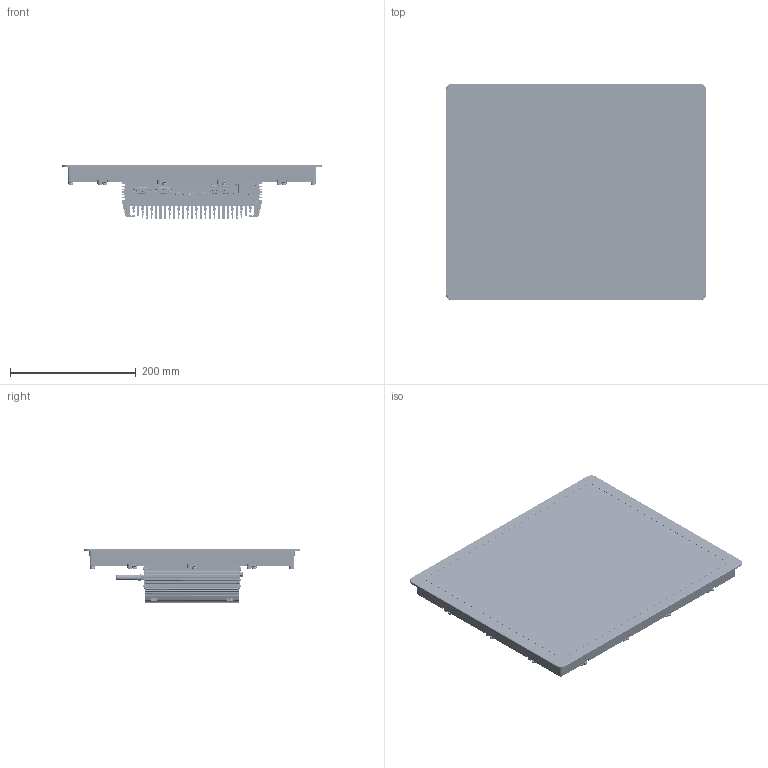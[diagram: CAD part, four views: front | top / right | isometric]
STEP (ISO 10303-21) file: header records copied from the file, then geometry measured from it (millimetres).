
FILE_DESCRIPTION(/* description */ (''),/* implementation_level */ '2;1');
FILE_NAME(/* name */ '17.0总装.stp',/* time_stamp */ '2026-03-05T10:14:39+08:00',/* author */ (''),/* organization */ (''),/* preprocessor_version */ 'ST-DEVELOPER v16',/* originating_system */ 'SIEMENS PLM Software NX 10.0',/* authorisation */ '');
FILE_SCHEMA (('AP203_CONFIGURATION_CONTROLLED_3D_DESIGN_OF_MECHANICAL_PARTS_AND_ASSEMBLIES_MIM_LF { 1 0 10303 403 2 1 2}'));
Products named in the file (1): Admi1FF8C4AFenkz
Bounding box: 414 x 345 x 86 mm (x, y, z)
Volume: 1514740.4 mm3; surface area: 1077590 mm2
Topology: 209 solids, 226 shells, 14937 faces, 38852 edges, 24557 vertices
Faces by surface type: plane 6781, cylinder 5497, bspline 1743, torus 485, cone 313, sphere 118
Full cylindrical faces by diameter (mm): 4.2 x1, 6 x14, 7 x14
Entity records: 616887 total; most frequent: CARTESIAN_POINT 316838, ORIENTED_EDGE 76902, DIRECTION 40189, EDGE_CURVE 38457, B_SPLINE_CURVE_WITH_KNOTS 25672, VERTEX_POINT 24527, AXIS2_PLACEMENT_3D 16766, EDGE_LOOP 15984
